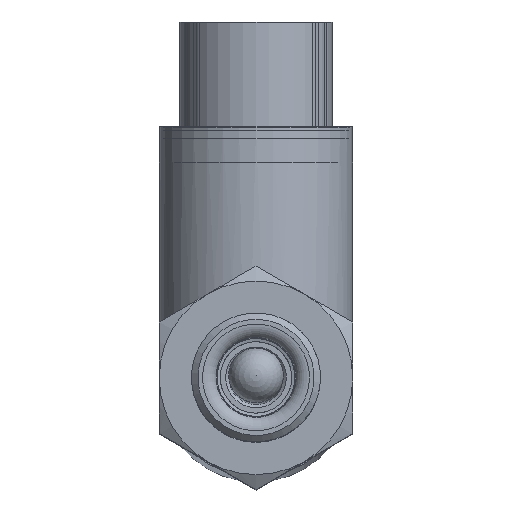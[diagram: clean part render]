
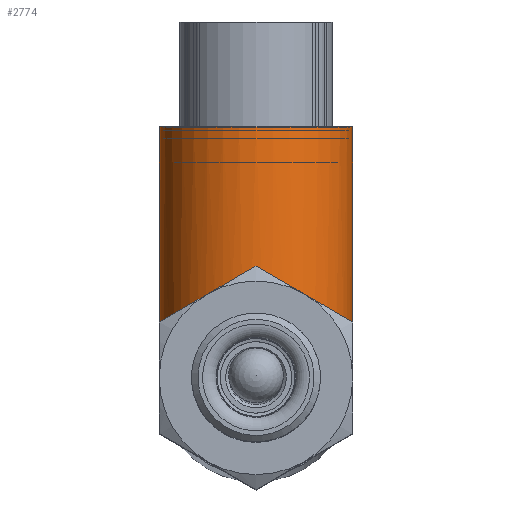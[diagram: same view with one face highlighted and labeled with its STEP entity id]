
A CAD part, top view. The second image highlights one B-rep face of the part: STEP entity #2774.
In plain terms, the highlighted cylindrical face has radius 9.525 mm (diameter 19.05 mm), a full revolution.
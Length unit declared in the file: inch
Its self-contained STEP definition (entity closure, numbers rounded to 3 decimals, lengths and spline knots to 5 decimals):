
#70=B_SPLINE_CURVE_WITH_KNOTS('',3,(#6398,#6399,#6400,#6401,#6402,#6403,
#6404,#6405,#6406,#6407,#6408,#6409,#6410,#6411,#6412,#6413,#6414,#6415,
#6416,#6417,#6418,#6419,#6420,#6421,#6422,#6423,#6424,#6425,#6426,#6427),
 .UNSPECIFIED.,.F.,.F.,(4,1,1,1,1,1,1,1,1,1,1,1,1,1,1,1,1,1,1,1,1,1,1,1,
1,1,1,4),(-9.63701,-9.40756,-9.17811,-8.7192,
-8.41326,-8.26029,-8.10733,-8.03084,
-7.95436,-7.80139,-7.49545,-7.18952,
-6.88358,-6.57764,-6.27171,-5.96577,
-5.65983,-5.35389,-5.04796,-4.89499,-4.81851,
-4.74202,-4.58905,-4.43608,-4.13015,
-3.67124,-3.44179,-3.21234),.UNSPECIFIED.);
#314=FACE_OUTER_BOUND('',#521,.T.);
#521=EDGE_LOOP('',(#1956,#1957,#1958,#1959));
#713=LINE('',#6477,#843);
#843=VECTOR('',#3698,0.375);
#1012=CIRCLE('',#3171,0.375);
#1210=VERTEX_POINT('',#6365);
#1214=VERTEX_POINT('',#6476);
#1483=EDGE_CURVE('',#1210,#1210,#70,.T.);
#1486=EDGE_CURVE('',#1214,#1210,#713,.T.);
#1487=EDGE_CURVE('',#1214,#1214,#1012,.T.);
#1956=ORIENTED_EDGE('',*,*,#1486,.F.);
#1957=ORIENTED_EDGE('',*,*,#1487,.F.);
#1958=ORIENTED_EDGE('',*,*,#1486,.T.);
#1959=ORIENTED_EDGE('',*,*,#1483,.F.);
#2491=CYLINDRICAL_SURFACE('',#3170,0.375);
#2774=ADVANCED_FACE('',(#314),#2491,.T.);
#3170=AXIS2_PLACEMENT_3D('',#6475,#3696,#3697);
#3171=AXIS2_PLACEMENT_3D('',#6478,#3699,#3700);
#3696=DIRECTION('center_axis',(0.,1.,0.));
#3697=DIRECTION('ref_axis',(0.,0.,1.));
#3698=DIRECTION('',(0.,-1.,0.));
#3699=DIRECTION('center_axis',(0.,1.,0.));
#3700=DIRECTION('ref_axis',(0.,0.,1.));
#6365=CARTESIAN_POINT('',(0.,0.3875,-5.755));
#6398=CARTESIAN_POINT('Ctrl Pts',(0.,0.3875,
-5.755));
#6399=CARTESIAN_POINT('Ctrl Pts',(0.03115,0.3875,
-5.755));
#6400=CARTESIAN_POINT('Ctrl Pts',(0.09334,0.38036,
-5.74713));
#6401=CARTESIAN_POINT('Ctrl Pts',(0.20461,0.34112,-5.70342));
#6402=CARTESIAN_POINT('Ctrl Pts',(0.2932,0.2724,-5.62527));
#6403=CARTESIAN_POINT('Ctrl Pts',(0.34371,0.20217,-5.53671));
#6404=CARTESIAN_POINT('Ctrl Pts',(0.36561,0.15994,-5.46934));
#6405=CARTESIAN_POINT('Ctrl Pts',(0.37367,0.14039,-5.42154));
#6406=CARTESIAN_POINT('Ctrl Pts',(0.37544,0.13579,-5.38));
#6407=CARTESIAN_POINT('Ctrl Pts',(0.37368,0.14036,-5.3384));
#6408=CARTESIAN_POINT('Ctrl Pts',(0.3623,0.16809,-5.27172));
#6409=CARTESIAN_POINT('Ctrl Pts',(0.32973,0.22601,-5.19222));
#6410=CARTESIAN_POINT('Ctrl Pts',(0.26717,0.29412,-5.1098));
#6411=CARTESIAN_POINT('Ctrl Pts',(0.17871,0.35264,-5.04369));
#6412=CARTESIAN_POINT('Ctrl Pts',(0.06402,0.38899,
-5.00334));
#6413=CARTESIAN_POINT('Ctrl Pts',(-0.06405,0.3889,
-5.0034));
#6414=CARTESIAN_POINT('Ctrl Pts',(-0.17867,0.35265,
-5.04371));
#6415=CARTESIAN_POINT('Ctrl Pts',(-0.26718,0.29407,
-5.10978));
#6416=CARTESIAN_POINT('Ctrl Pts',(-0.32973,0.22601,
-5.19227));
#6417=CARTESIAN_POINT('Ctrl Pts',(-0.36229,0.16812,
-5.27175));
#6418=CARTESIAN_POINT('Ctrl Pts',(-0.37368,0.14034,
-5.33842));
#6419=CARTESIAN_POINT('Ctrl Pts',(-0.37544,0.13579,
-5.38003));
#6420=CARTESIAN_POINT('Ctrl Pts',(-0.37367,0.1404,-5.42157));
#6421=CARTESIAN_POINT('Ctrl Pts',(-0.3656,0.15994,
-5.46934));
#6422=CARTESIAN_POINT('Ctrl Pts',(-0.34369,0.20218,
-5.53674));
#6423=CARTESIAN_POINT('Ctrl Pts',(-0.2932,0.2724,
-5.62527));
#6424=CARTESIAN_POINT('Ctrl Pts',(-0.20461,0.34112,
-5.70342));
#6425=CARTESIAN_POINT('Ctrl Pts',(-0.09334,0.38036,
-5.74713));
#6426=CARTESIAN_POINT('Ctrl Pts',(-0.03115,0.3875,
-5.755));
#6427=CARTESIAN_POINT('Ctrl Pts',(0.,0.3875,
-5.755));
#6475=CARTESIAN_POINT('Origin',(0.,0.47,
-5.38));
#6476=CARTESIAN_POINT('',(0.,1.,-5.755));
#6477=CARTESIAN_POINT('',(0.,0.47,-5.755));
#6478=CARTESIAN_POINT('Origin',(0.,1.,
-5.38));
